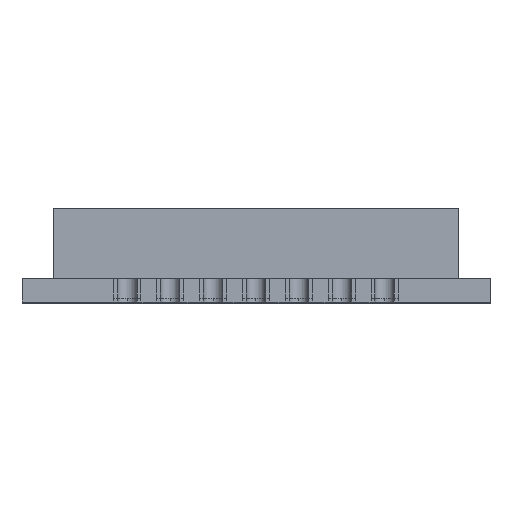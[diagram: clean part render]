
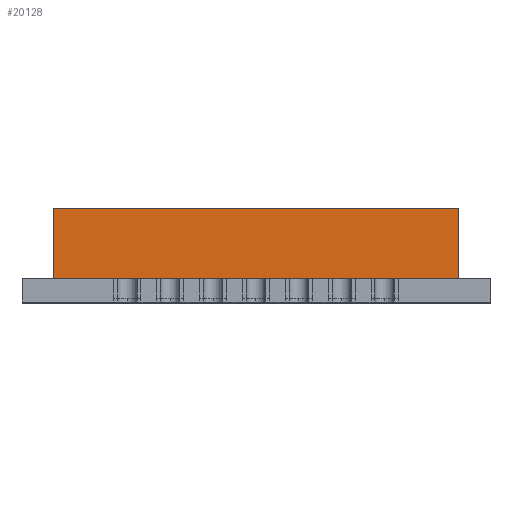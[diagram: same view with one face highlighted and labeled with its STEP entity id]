
A CAD part, top view. The second image highlights one B-rep face of the part: STEP entity #20128.
In plain terms, the highlighted planar face has unit normal (0, 0, 1).
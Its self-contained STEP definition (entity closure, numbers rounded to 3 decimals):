
#18 = DIRECTION ( 'NONE',  ( 1., 0., 0. ) ) ;
#902 = VERTEX_POINT ( 'NONE', #3232 ) ;
#937 = LINE ( 'NONE', #8237, #16200 ) ;
#1483 = VERTEX_POINT ( 'NONE', #7730 ) ;
#2135 = EDGE_CURVE ( 'NONE', #1483, #10523, #937, .T. ) ;
#2282 = VECTOR ( 'NONE', #18742, 1000. ) ;
#3057 = ORIENTED_EDGE ( 'NONE', *, *, #14478, .T. ) ;
#3232 = CARTESIAN_POINT ( 'NONE',  ( -5.2, 0.6, 10.3 ) ) ;
#3613 = CARTESIAN_POINT ( 'NONE',  ( -5.2, 2.4, 10.3 ) ) ;
#4387 = VERTEX_POINT ( 'NONE', #21758 ) ;
#4413 = LINE ( 'NONE', #12244, #8551 ) ;
#4551 = CARTESIAN_POINT ( 'NONE',  ( 5.2, 2.4, 10.3 ) ) ;
#5149 = ORIENTED_EDGE ( 'NONE', *, *, #10005, .T. ) ;
#6087 = ORIENTED_EDGE ( 'NONE', *, *, #9366, .F. ) ;
#6344 = LINE ( 'NONE', #6574, #2282 ) ;
#6414 = CARTESIAN_POINT ( 'NONE',  ( 5.2, 2.4, 10.3 ) ) ;
#6574 = CARTESIAN_POINT ( 'NONE',  ( -5.2, 2.4, 10.3 ) ) ;
#7134 = DIRECTION ( 'NONE',  ( 0., 0., -1. ) ) ;
#7730 = CARTESIAN_POINT ( 'NONE',  ( -5.2, 2.4, 10.3 ) ) ;
#8237 = CARTESIAN_POINT ( 'NONE',  ( -5.2, 2.4, 10.3 ) ) ;
#8551 = VECTOR ( 'NONE', #18, 1000. ) ;
#9366 = EDGE_CURVE ( 'NONE', #10523, #4387, #9404, .T. ) ;
#9404 = LINE ( 'NONE', #6414, #18076 ) ;
#9413 = FACE_OUTER_BOUND ( 'NONE', #16605, .T. ) ;
#10005 = EDGE_CURVE ( 'NONE', #1483, #902, #6344, .T. ) ;
#10523 = VERTEX_POINT ( 'NONE', #4551 ) ;
#10631 = PLANE ( 'NONE',  #17423 ) ;
#12244 = CARTESIAN_POINT ( 'NONE',  ( -5.2, 0.6, 10.3 ) ) ;
#14056 = ORIENTED_EDGE ( 'NONE', *, *, #2135, .F. ) ;
#14135 = DIRECTION ( 'NONE',  ( -1., 0., 0. ) ) ;
#14478 = EDGE_CURVE ( 'NONE', #902, #4387, #4413, .T. ) ;
#16200 = VECTOR ( 'NONE', #18601, 1000. ) ;
#16605 = EDGE_LOOP ( 'NONE', ( #3057, #6087, #14056, #5149 ) ) ;
#17423 = AXIS2_PLACEMENT_3D ( 'NONE', #3613, #7134, #14135 ) ;
#18076 = VECTOR ( 'NONE', #18570, 1000. ) ;
#18570 = DIRECTION ( 'NONE',  ( 0., -1., 0. ) ) ;
#18601 = DIRECTION ( 'NONE',  ( 1., 0., 0. ) ) ;
#18742 = DIRECTION ( 'NONE',  ( 0., -1., 0. ) ) ;
#20128 = ADVANCED_FACE ( 'NONE', ( #9413 ), #10631, .F. ) ;
#21758 = CARTESIAN_POINT ( 'NONE',  ( 5.2, 0.6, 10.3 ) ) ;
